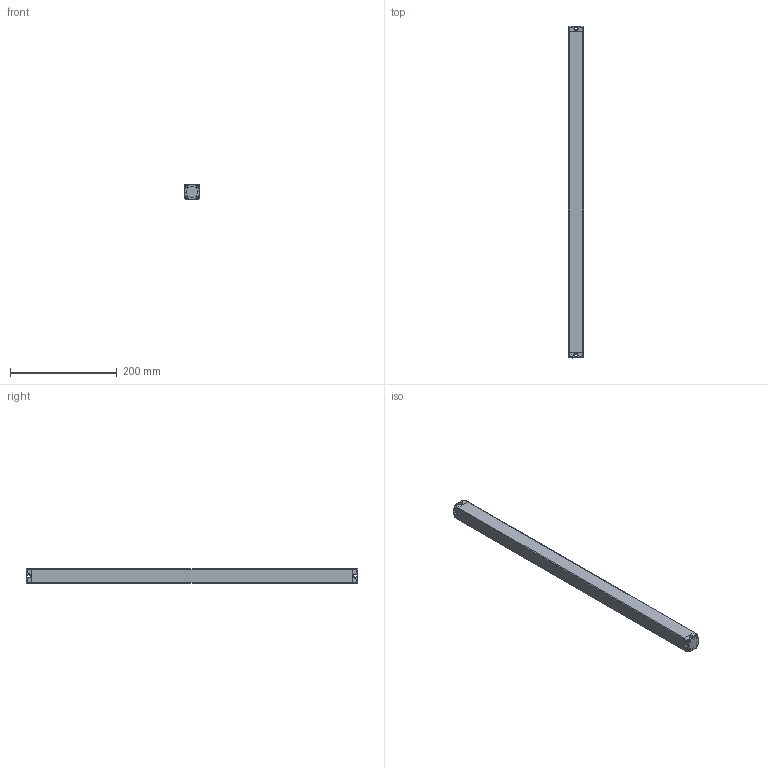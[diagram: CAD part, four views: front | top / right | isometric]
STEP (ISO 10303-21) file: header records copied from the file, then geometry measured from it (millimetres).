
FILE_DESCRIPTION((''),'2;1');
FILE_NAME('ELD00_ASM','2021-07-20T09:26:40',('18720616900'),(''),'CREO PARAMETRIC BY PTC INC, 2019010','CREO PARAMETRIC BY PTC INC, 2019010','');
FILE_SCHEMA(('CONFIG_CONTROL_DESIGN'));
Length unit declared in the file: millimetre
Products named in the file (6): ELD--00; ELD--000; ST-3-12; ELD00_ASM
Assembly tree (12 placements, depth 2):
  ELD00_ASM
    ELD--00
    ELD--000
    ELD--000
    ELD--000
    ST-3-12  x8
Bounding box: 28 x 622 x 28 mm (x, y, z)
Volume: 483427.8 mm3; surface area: 104635.8 mm2
Topology: 12 solids, 12 shells, 792 faces, 2082 edges, 1296 vertices
Faces by surface type: plane 236, cone 172, bspline 168, cylinder 156, torus 44, sphere 16
Entity records: 14414 total; most frequent: CARTESIAN_POINT 6863, ORIENTED_EDGE 1584, DIRECTION 1469, EDGE_CURVE 792, AXIS2_PLACEMENT_3D 520, VERTEX_POINT 491, VECTOR 429, LINE 429
